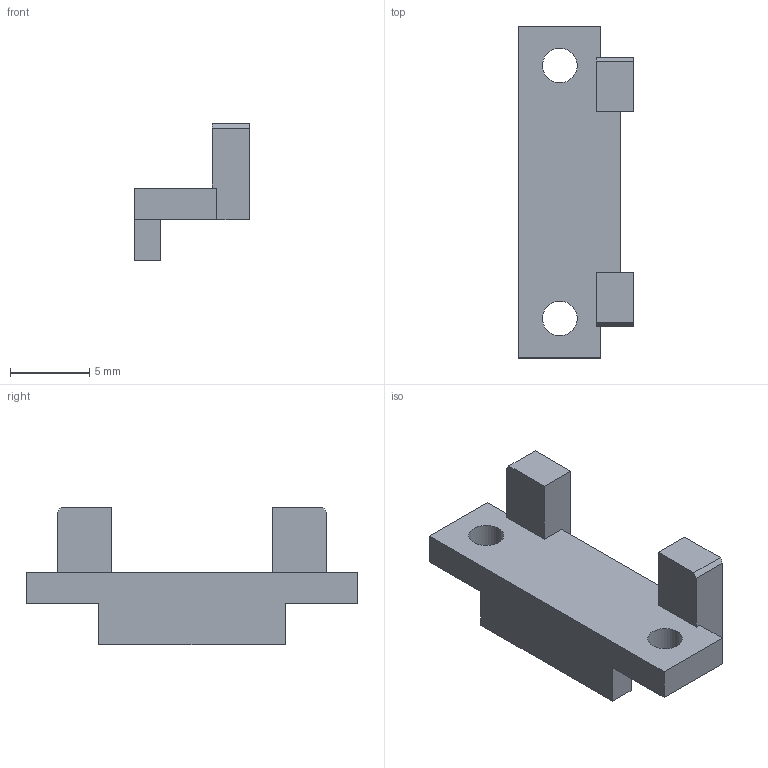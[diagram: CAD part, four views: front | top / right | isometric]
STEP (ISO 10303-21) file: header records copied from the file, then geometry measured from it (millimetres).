
FILE_DESCRIPTION(/* description */ (''),/* implementation_level */ '2;1');
FILE_NAME(/* name */ 'K01.step',/* time_stamp */ '2026-09-15T15:15:10-07:00',/* author */ (''),/* organization */ (''),/* preprocessor_version */ 'ST-DEVELOPER v20.1',/* originating_system */ 'Autodesk Translation Framework v15.8.0.0',/* authorisation */ '');
FILE_SCHEMA (('AUTOMOTIVE_DESIGN { 1 0 10303 214 3 1 1 }'));
Length unit declared in the file: millimetre
Products named in the file (1): 2026-09-15-15-15-10-903
Bounding box: 7.25 x 21 x 8.7 mm (x, y, z)
Volume: 372.6 mm3; surface area: 563.8 mm2
Topology: 1 solids, 1 shells, 26 faces, 72 edges, 48 vertices
Faces by surface type: plane 22, cylinder 4
Full cylindrical faces by diameter (mm): 2.2 x2
Entity records: 865 total; most frequent: CARTESIAN_POINT 147, ORIENTED_EDGE 144, DIRECTION 134, EDGE_CURVE 72, LINE 64, VECTOR 64, VERTEX_POINT 48, AXIS2_PLACEMENT_3D 35
